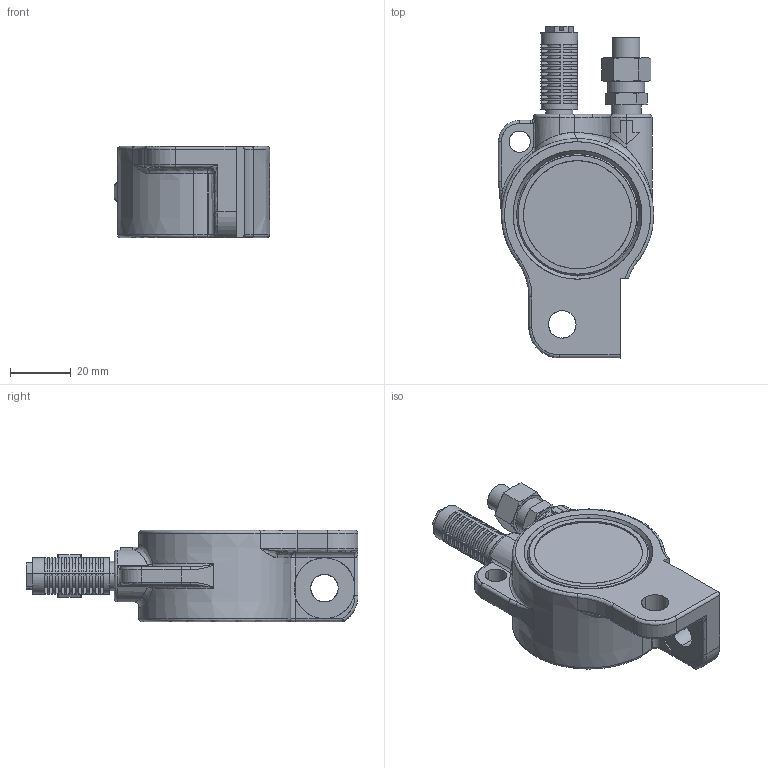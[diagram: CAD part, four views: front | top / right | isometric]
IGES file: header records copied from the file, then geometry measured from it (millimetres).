
Start section: SolidWorks IGES file using analytic representation for surfaces
Global section: file name: V:\WORK\08133\HP 寸法図\ball\BH10A\test_A91000E-000 BH10A_defeature.IGS,15; native system: HSolidWorks 2018; preprocessor: SolidWorks 2018; author: n-udagawa; date: 230112.110930; units: millimetre
Bounding box: 50.99 x 109 x 30 mm (x, y, z)
Surface area: 17734.2 mm2 (no closed solid volume)
Topology: 0 solids, 0 shells, 421 faces, 6389 edges, 7377 vertices
Faces by surface type: bspline 287, revolution 134
